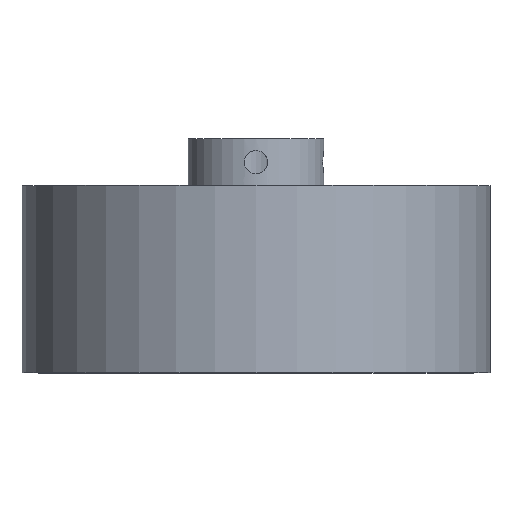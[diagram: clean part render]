
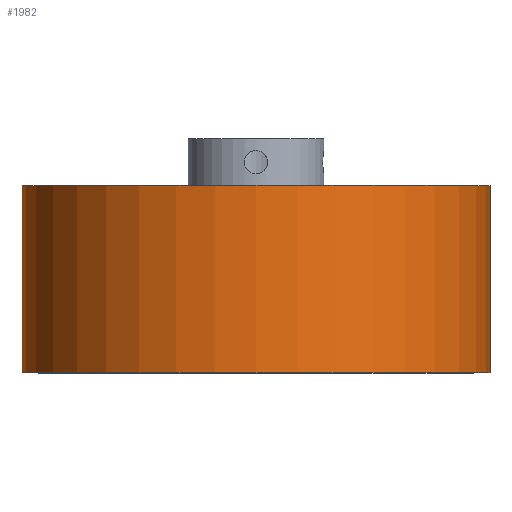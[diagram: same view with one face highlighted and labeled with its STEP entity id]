
A CAD part, top view. The second image highlights one B-rep face of the part: STEP entity #1982.
In plain terms, the highlighted cylindrical face has radius 63.5 mm (diameter 127 mm), a full revolution.
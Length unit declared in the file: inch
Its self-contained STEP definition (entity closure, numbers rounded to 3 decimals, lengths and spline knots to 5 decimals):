
#270=FACE_OUTER_BOUND('',#364,.T.);
#364=EDGE_LOOP('',(#1623,#1624,#1625,#1626));
#550=LINE('',#3317,#696);
#696=VECTOR('',#2771,2.5);
#815=CIRCLE('',#2212,2.5);
#816=CIRCLE('',#2213,2.5);
#991=VERTEX_POINT('',#3314);
#992=VERTEX_POINT('',#3316);
#1262=EDGE_CURVE('',#991,#991,#815,.T.);
#1263=EDGE_CURVE('',#991,#992,#550,.T.);
#1264=EDGE_CURVE('',#992,#992,#816,.T.);
#1623=ORIENTED_EDGE('',*,*,#1262,.F.);
#1624=ORIENTED_EDGE('',*,*,#1263,.T.);
#1625=ORIENTED_EDGE('',*,*,#1264,.T.);
#1626=ORIENTED_EDGE('',*,*,#1263,.F.);
#1892=CYLINDRICAL_SURFACE('',#2211,2.5);
#1982=ADVANCED_FACE('',(#270),#1892,.T.);
#2211=AXIS2_PLACEMENT_3D('',#3313,#2767,#2768);
#2212=AXIS2_PLACEMENT_3D('',#3315,#2769,#2770);
#2213=AXIS2_PLACEMENT_3D('',#3318,#2772,#2773);
#2767=DIRECTION('center_axis',(0.,1.,0.));
#2768=DIRECTION('ref_axis',(-1.,0.,0.));
#2769=DIRECTION('center_axis',(0.,1.,0.));
#2770=DIRECTION('ref_axis',(-1.,0.,0.));
#2771=DIRECTION('',(0.,-1.,0.));
#2772=DIRECTION('center_axis',(0.,1.,0.));
#2773=DIRECTION('ref_axis',(-1.,0.,0.));
#3313=CARTESIAN_POINT('Origin',(0.,0.,0.));
#3314=CARTESIAN_POINT('',(2.5,2.,0.));
#3315=CARTESIAN_POINT('Origin',(0.,2.,0.));
#3316=CARTESIAN_POINT('',(2.5,0.,0.));
#3317=CARTESIAN_POINT('',(2.5,0.,0.));
#3318=CARTESIAN_POINT('Origin',(0.,0.,0.));
